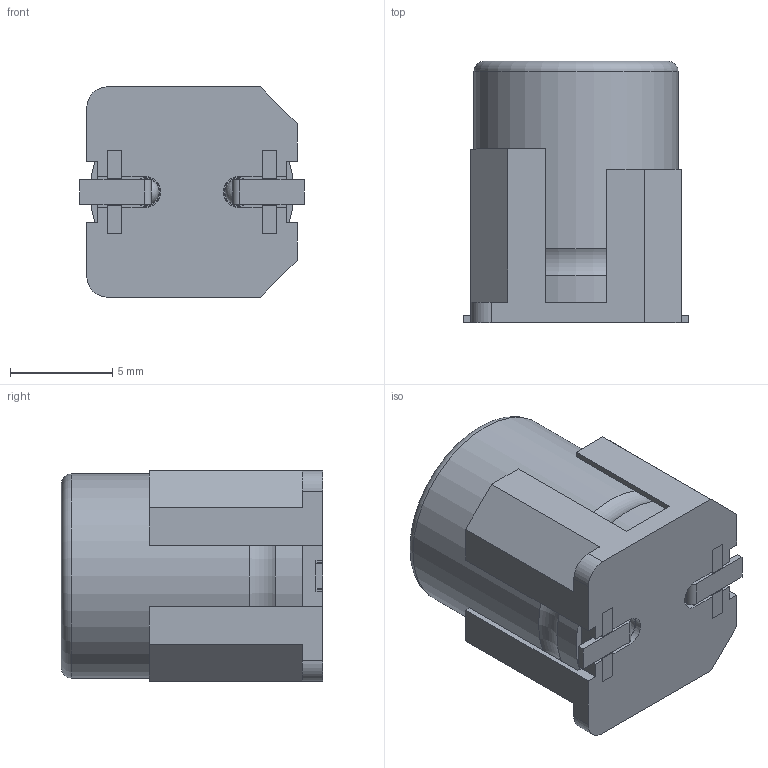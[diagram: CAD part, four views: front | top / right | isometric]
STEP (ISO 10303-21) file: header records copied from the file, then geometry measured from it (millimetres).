
FILE_DESCRIPTION(/* description */ (''),/* implementation_level */ '2;1');
FILE_NAME(/* name */ '\\D-crew-srv\ボリューム (e)\DWG\03 ミヤハラ\03 パナソニック\2018\01 コンデンサ 3D化\01 3D\耐振品Φ10 SIZE CODE G12.stp',/* time_stamp */ '2018-06-21T10:19:01+09:00',/* author */ ('HIDE'),/* organization */ (''),/* preprocessor_version */ 'ST-DEVELOPER v16.13',/* originating_system */ 'Autodesk Inventor 2018',/* authorisation */ '');
FILE_SCHEMA (('AUTOMOTIVE_DESIGN { 1 0 10303 214 3 1 1 }'));
Length unit declared in the file: millimetre
Products named in the file (5): 耐振品Φ10 SIZE CODE G12; 耐振品ケースΦ10x11.8L SIDE CODE 
G12; 耐振品座版Φ10 SIZE CODE G12; 耐振品座版用補助端子Φ10 
SIZE CODE G12; 耐振品リード線Φ10 SIZE CODE G1
2
Assembly tree (6 placements, depth 2):
  耐振品Φ10 SIZE CODE G12
    耐振品ケースΦ10x11.8L SIDE CODE 
G12
    耐振品座版Φ10 SIZE CODE G12
    耐振品座版用補助端子Φ10 
SIZE CODE G12  x2
    耐振品リード線Φ10 SIZE CODE G1
2  x2
Bounding box: 11 x 12.8 x 10.3 mm (x, y, z)
Volume: 1137.3 mm3; surface area: 1152.3 mm2
Topology: 6 solids, 6 shells, 135 faces, 363 edges, 241 vertices
Faces by surface type: plane 113, cylinder 16, sphere 4, torus 2
Full cylindrical faces by diameter (mm): 1.3 x2, 1.4 x2, 10 x2
Entity records: 3595 total; most frequent: CARTESIAN_POINT 593, ORIENTED_EDGE 566, DIRECTION 555, EDGE_CURVE 283, LINE 247, VECTOR 247, VERTEX_POINT 192, AXIS2_PLACEMENT_3D 154
